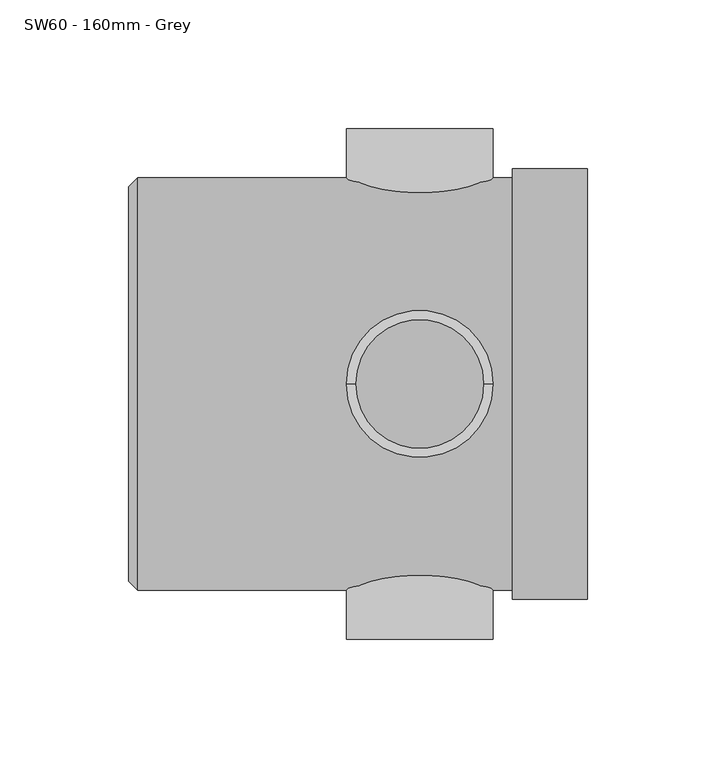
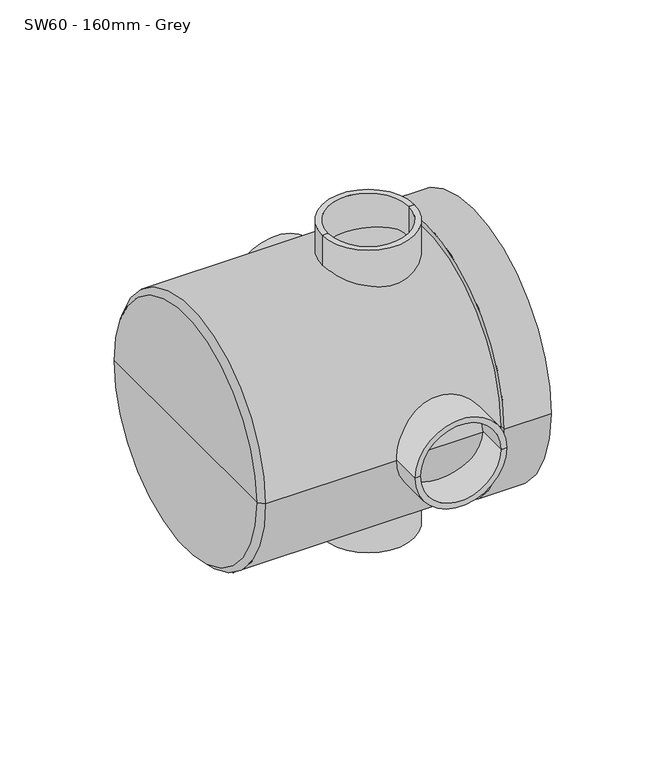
"""IFC4 building model written with IfcOpenShell, lengths in millimetres: pipe fitting geometry, MarleyPlumbingAndDrainage_PipeFitting_BossPipePushFitSolventSocket : SW60 - 160mm - Grey."""

import ifcopenshell
import ifcopenshell.guid

model = None  # the IFC model being written
_history = None  # IfcOwnerHistory: only IFC2X3 demands one
_inside = {}  # id of a spatial element -> (the spatial element, [elements in it])
_under = {}  # id of a project, library or spatial element -> (it, [spatial elements below it])
_declared = {}  # id of a project -> (the project, [libraries it declares])
_typed = {}  # id of a type object -> (the type object, [elements of that type])
_made_of = {}  # id of a material, layer set ... -> (it, [elements and type objects made of it])


def new_model(schema):
    """Start an empty IFC model of exactly this schema.

    Asked for "IFC4X3", IfcOpenShell would pick the latest addendum, in which some entities
    have other attributes; the version numbers below select the first issue.
    IFC2X3 requires an IfcOwnerHistory on every rooted entity: one is made here for all.
    """
    global model, _history
    if schema == "IFC4X3":
        model = ifcopenshell.file(schema_version=(4, 3, 0, 0))
    else:
        model = ifcopenshell.file(schema=schema)
    _inside.clear()
    _under.clear()
    _declared.clear()
    _typed.clear()
    _made_of.clear()
    _history = None
    if model.schema == "IFC2X3":
        org = make("IfcOrganization", Name="unknown")
        user = make(
            "IfcPersonAndOrganization",
            ThePerson=make("IfcPerson", FamilyName="unknown"),
            TheOrganization=org,
        )
        app = make(
            "IfcApplication",
            ApplicationDeveloper=org,
            Version="unknown",
            ApplicationFullName="unknown",
            ApplicationIdentifier="unknown",
        )
        _history = make(
            "IfcOwnerHistory",
            OwningUser=user,
            OwningApplication=app,
            ChangeAction="ADDED",
            CreationDate=0,
        )
    return model


def make(cls, **values):
    """One entity of the class cls with the attributes given. An attribute that is None is left unset."""
    return model.create_entity(
        cls, **{name: value for name, value in values.items() if value is not None}
    )


def rooted(cls, **values):
    """An entity with a GlobalId (a new one), such as an element, a storey or a relation."""
    return make(cls, GlobalId=ifcopenshell.guid.new(), OwnerHistory=_history, **values)


def si_unit(unit_type, name, prefix=None):
    """IfcSIUnit, for example si_unit("LENGTHUNIT", "METRE", prefix="MILLI")."""
    return make("IfcSIUnit", UnitType=unit_type, Prefix=prefix, Name=name)


def assignment(units):
    """IfcUnitAssignment: the units of a project."""
    return None if units is None else make("IfcUnitAssignment", Units=units)


def point(xyz):
    """IfcCartesianPoint."""
    return None if xyz is None else make("IfcCartesianPoint", Coordinates=xyz)


def direction(xyz):
    """IfcDirection."""
    return None if xyz is None else make("IfcDirection", DirectionRatios=xyz)


def frame(location, z_axis=None, x_axis=None):
    """IfcAxis2Placement3D, a coordinate frame: its origin and axes. An axis left out is left unset."""
    return make(
        "IfcAxis2Placement3D",
        Location=point(location),
        Axis=direction(z_axis),
        RefDirection=direction(x_axis),
    )


def origin():
    """The frame at (0, 0, 0) with its axes left unset."""
    return frame((0.0, 0.0, 0.0))


def place(relative_to, where):
    """IfcLocalPlacement: puts the frame where relative to a parent placement (None: the world)."""
    return make(
        "IfcLocalPlacement", PlacementRelTo=relative_to, RelativePlacement=where
    )


def context(
    kind, dimensions, precision=None, world=None, true_north=None, identifier=None
):
    """IfcGeometricRepresentationContext, for example the 3D "Model" context."""
    return make(
        "IfcGeometricRepresentationContext",
        ContextIdentifier=identifier,
        ContextType=kind,
        CoordinateSpaceDimension=dimensions,
        Precision=precision,
        WorldCoordinateSystem=world,
        TrueNorth=true_north,
    )


def project(units=None, contexts=None):
    """IfcProject with its units and contexts."""
    return rooted(
        "IfcProject",
        Name="project",
        RepresentationContexts=contexts,
        UnitsInContext=assignment(units),
    )


def spatial(cls, under=None, at=None, **own):
    """A site, building, storey or space (cls), placed at a placement, below another one or the project."""
    s = rooted(cls, ObjectPlacement=at, **own)
    if under is not None:
        _under.setdefault(under.id(), (under, []))[1].append(s)
    return s


def polyline(points):
    """IfcPolyline through the points."""
    return make("IfcPolyline", Points=[point(p) for p in points])


def circle_curve(where, radius):
    """IfcCircle in the frame where."""
    return make("IfcCircle", Position=where, Radius=radius)


def shape(context_of_items, identifier, shape_type, items):
    """IfcShapeRepresentation: the items that make up one representation, for example the "Body"."""
    return make(
        "IfcShapeRepresentation",
        ContextOfItems=context_of_items,
        RepresentationIdentifier=identifier,
        RepresentationType=shape_type,
        Items=items,
    )


def source(mapping_origin, context_of_items, identifier, shape_type, items):
    """IfcRepresentationMap: a shape defined once, which mapped items show again and again."""
    return make(
        "IfcRepresentationMap",
        MappingOrigin=mapping_origin,
        MappedRepresentation=shape(context_of_items, identifier, shape_type, items),
    )


def transform(
    local_origin,
    x_axis=None,
    y_axis=None,
    z_axis=None,
    scale=None,
    scale2=None,
    scale3=None,
    uniform=True,
):
    """IfcCartesianTransformationOperator3D, or its non-uniform kind. x_axis, y_axis, z_axis: its Axis1, 2, 3."""
    if uniform:
        return make(
            "IfcCartesianTransformationOperator3D",
            Axis1=direction(x_axis),
            Axis2=direction(y_axis),
            LocalOrigin=point(local_origin),
            Scale=scale,
            Axis3=direction(z_axis),
        )
    return make(
        "IfcCartesianTransformationOperator3DnonUniform",
        Axis1=direction(x_axis),
        Axis2=direction(y_axis),
        LocalOrigin=point(local_origin),
        Scale=scale,
        Axis3=direction(z_axis),
        Scale2=scale2,
        Scale3=scale3,
    )


def mapped(mapping_source, mapping_target):
    """IfcMappedItem: shows the shape of a source again, moved by a transform."""
    return make(
        "IfcMappedItem", MappingSource=mapping_source, MappingTarget=mapping_target
    )


def made_of(thing, what):
    """Note that an element or type object is made of a material, layer set ...; save() writes the relation."""
    if what is not None:
        _made_of.setdefault(what.id(), (what, []))[1].append(thing)
    return thing


def element(
    cls,
    number,
    at=None,
    inside=None,
    cuts=None,
    type_object=None,
    material=None,
    context=None,
    identifier="Body",
    shape_type=None,
    held_by="IfcProductDefinitionShape",
    body=None,
    shapes=None,
    **own,
):
    """One element of the class cls, such as IfcWall. Its Tag is "e" and its number.

    at: its placement. inside: the storey or other place that contains it. cuts: it is an
    opening in that element (IfcRelVoidsElement). A single representation is given by context,
    identifier, shape_type and body (its items); several are given by shapes. held_by: the class
    of the entity that holds the representations. save() writes the other relations.
    """
    e = rooted(cls, Tag="e%d" % number, ObjectPlacement=at, **own)
    if body is not None:
        shapes = [shape(context, identifier, shape_type, body)]
    if shapes is not None:
        e.Representation = make(held_by, Representations=shapes)
    if inside is not None:
        _inside.setdefault(inside.id(), (inside, []))[1].append(e)
    if cuts is not None:
        rooted(
            "IfcRelVoidsElement", RelatingBuildingElement=cuts, RelatedOpeningElement=e
        )
    if type_object is not None:
        _typed.setdefault(type_object.id(), (type_object, []))[1].append(e)
    return made_of(e, material)


def aggregate(whole, parts):
    """IfcRelAggregates: a whole, such as a stair, and the parts it consists of."""
    return rooted("IfcRelAggregates", RelatingObject=whole, RelatedObjects=parts)


def save(model, path):
    """Write the relations noted so far, then the file.

    IfcRelAggregates (storeys below a building ...), IfcRelContainedInSpatialStructure (elements
    in a storey), IfcRelDefinesByType, IfcRelAssociatesMaterial and IfcRelDeclares: one each for
    every whole, place, type object, material and project.
    """
    for whole, parts in _under.values():
        aggregate(whole, parts)
    for where, things in _inside.values():
        rooted(
            "IfcRelContainedInSpatialStructure",
            RelatedElements=things,
            RelatingStructure=where,
        )
    for kind, things in _typed.values():
        rooted("IfcRelDefinesByType", RelatedObjects=things, RelatingType=kind)
    for what, things in _made_of.values():
        rooted("IfcRelAssociatesMaterial", RelatedObjects=things, RelatingMaterial=what)
    for by, libraries in _declared.values():
        rooted("IfcRelDeclares", RelatingContext=by, RelatedDefinitions=libraries)
    model.write(path)


def plane_surface(at):
    """IfcPlane: the flat surface through the origin of the frame at, square to its z axis."""
    return make("IfcPlane", Position=at)


def cylinder_surface(at, radius):
    """IfcCylindricalSurface: all points at the distance radius from the z axis of the frame at."""
    return make("IfcCylindricalSurface", Position=at, Radius=radius)


def revolved_surface(curve, axis_point, axis_direction):
    """IfcSurfaceOfRevolution: the curve turned about the line through axis_point along axis_direction."""
    return make(
        "IfcSurfaceOfRevolution",
        SweptCurve=make("IfcArbitraryOpenProfileDef", ProfileType="CURVE", Curve=curve),
        AxisPosition=make("IfcAxis1Placement", Location=point(axis_point), Axis=direction(axis_direction)),
    )


def advanced_brep(points, edges, surfaces, faces):
    """IfcAdvancedBrep: a solid bounded by faces that lie on surfaces and meet in shared edges.

    An edge is (start, end): straight between two places in points (the first is 0);
    or (start, end, curve); or (start, end, curve, False) where it runs against its curve.
    A face is (place in surfaces, loops), or (place, loops, False) where it looks against
    its surface's normal. A loop lists edges by number (the first is 1), with a minus sign
    where the edge is run from its end to its start. The first loop is the outer one.
    """
    corners = [point(p) for p in points]
    vertices = [make("IfcVertexPoint", VertexGeometry=c) for c in corners]
    made = []
    for start, end, *more in edges:
        made.append(
            make(
                "IfcEdgeCurve",
                EdgeStart=vertices[start],
                EdgeEnd=vertices[end],
                EdgeGeometry=more[0] if more else make("IfcPolyline", Points=[corners[start], corners[end]]),
                SameSense=more[1] if len(more) > 1 else True,
            )
        )
    hull = []
    for where, loops, *sense in faces:
        bounds = []
        for j, loop in enumerate(loops):
            ring = [make("IfcOrientedEdge", EdgeElement=made[abs(k) - 1], Orientation=k > 0) for k in loop]
            bounds.append(
                make(
                    "IfcFaceOuterBound" if j == 0 else "IfcFaceBound",
                    Bound=make("IfcEdgeLoop", EdgeList=ring),
                    Orientation=True,
                )
            )
        hull.append(make("IfcAdvancedFace", Bounds=bounds, FaceSurface=surfaces[where], SameSense=sense[0] if sense else True))
    return make("IfcAdvancedBrep", Outer=make("IfcClosedShell", CfsFaces=hull))


def sw60_160mm_grey_9d2c8001(model_context):
    return source(origin(), model_context, "Body", "AdvancedBrep", [
        advanced_brep(
        [(37.6746182, 0.0, 99.0), (-19.3253818, 0.0, 99.0), (-15.8253818, 0.0, 99.0), (34.1746182, 0.0, 99.0), (37.6746182, 0.0, -99.0), (-19.3253818, 0.0, -99.0), (34.1746182, 0.0, -99.0), (-15.8253818, 0.0, -99.0)],
        [
            (0, 1, circle_curve(frame((9.1746182, 0.0, 99.0), z_axis=(0.0, 0.0, 1.0), x_axis=(-1.0, 0.0, 0.0)), 28.5)),
            (1, 2),
            (2, 3, circle_curve(frame((9.1746182, 0.0, 99.0), z_axis=(0.0, 0.0, -1.0), x_axis=(-1.0, 0.0, 0.0)), 25.0)),
            (3, 0),
            (1, 0, circle_curve(frame((9.1746182, 0.0, 99.0), z_axis=(0.0, 0.0, 1.0), x_axis=(-1.0, 0.0, 0.0)), 28.5)),
            (3, 2, circle_curve(frame((9.1746182, 0.0, 99.0), z_axis=(0.0, 0.0, -1.0), x_axis=(-1.0, 0.0, 0.0)), 25.0)),
            (4, 5, circle_curve(frame((9.1746182, 0.0, -99.0), z_axis=(0.0, 0.0, 1.0), x_axis=(-1.0, 0.0, 0.0)), 28.5)),
            (5, 1),
            (0, 4),
            (5, 4, circle_curve(frame((9.1746182, 0.0, -99.0), z_axis=(0.0, 0.0, 1.0), x_axis=(-1.0, 0.0, 0.0)), 28.5)),
            (6, 7, circle_curve(frame((9.1746182, 0.0, -99.0), z_axis=(0.0, 0.0, 1.0), x_axis=(-1.0, 0.0, 0.0)), 25.0)),
            (7, 5),
            (4, 6),
            (7, 6, circle_curve(frame((9.1746182, 0.0, -99.0), z_axis=(0.0, 0.0, 1.0), x_axis=(-1.0, 0.0, 0.0)), 25.0)),
            (2, 7),
            (6, 3),
        ],
        [
            plane_surface(frame((9.1746182, 0.0, 99.0), z_axis=(0.0, 0.0, 1.0), x_axis=(-1.0, 0.0, 0.0))),
            cylinder_surface(frame((9.1746182, 0.0, 2438.4), z_axis=(0.0, 0.0, -1.0), x_axis=(-1.0, 0.0, 0.0)), 28.5),
            plane_surface(frame((9.1746182, 0.0, -99.0), z_axis=(0.0, 0.0, -1.0), x_axis=(-1.0, 0.0, 0.0))),
            revolved_surface(polyline([(-15.8253818, 0.0, -99.0), (-15.8253818, 0.0, 99.0)]), (9.1746182, 0.0, 2438.4), (0.0, 0.0, -1.0)),
        ],
        [
            (0, [[1, 2, 3, 4]]),
            (0, [[5, -4, 6, -2]]),
            (1, [[7, 8, -1, 9]]),
            (1, [[10, -9, -5, -8]]),
            (2, [[11, 12, -7, 13]]),
            (2, [[14, -13, -10, -12]]),
            (3, [[-3, 15, -11, 16]]),
            (3, [[-6, -16, -14, -15]]),
        ],
    ),
        advanced_brep(
        [(37.6746182, 99.0, 0.0), (-19.3253818, 99.0, 0.0), (-15.8253818, 99.0, 0.0), (34.1746182, 99.0, 0.0), (37.6746182, -99.0, 0.0), (-19.3253818, -99.0, 0.0), (34.1746182, -99.0, 0.0), (-15.8253818, -99.0, 0.0)],
        [
            (0, 1, circle_curve(frame((9.1746182, 99.0, 0.0), z_axis=(0.0, 1.0, 0.0), x_axis=(-1.0, 0.0, 0.0)), 28.5)),
            (1, 2),
            (2, 3, circle_curve(frame((9.1746182, 99.0, 0.0), z_axis=(0.0, -1.0, 0.0), x_axis=(-1.0, 0.0, 0.0)), 25.0)),
            (3, 0),
            (1, 0, circle_curve(frame((9.1746182, 99.0, 0.0), z_axis=(0.0, 1.0, 0.0), x_axis=(-1.0, 0.0, 0.0)), 28.5)),
            (3, 2, circle_curve(frame((9.1746182, 99.0, 0.0), z_axis=(0.0, -1.0, 0.0), x_axis=(-1.0, 0.0, 0.0)), 25.0)),
            (4, 5, circle_curve(frame((9.1746182, -99.0, 0.0), z_axis=(0.0, 1.0, 0.0), x_axis=(-1.0, 0.0, 0.0)), 28.5)),
            (5, 1),
            (0, 4),
            (5, 4, circle_curve(frame((9.1746182, -99.0, 0.0), z_axis=(0.0, 1.0, 0.0), x_axis=(-1.0, 0.0, 0.0)), 28.5)),
            (6, 7, circle_curve(frame((9.1746182, -99.0, 0.0), z_axis=(0.0, 1.0, 0.0), x_axis=(-1.0, 0.0, 0.0)), 25.0)),
            (7, 5),
            (4, 6),
            (7, 6, circle_curve(frame((9.1746182, -99.0, 0.0), z_axis=(0.0, 1.0, 0.0), x_axis=(-1.0, 0.0, 0.0)), 25.0)),
            (2, 7),
            (6, 3),
        ],
        [
            plane_surface(frame((9.1746182, 99.0, 0.0), z_axis=(0.0, 1.0, 0.0), x_axis=(-1.0, 0.0, 0.0))),
            cylinder_surface(frame((9.1746182, 127.3617132, 0.0), z_axis=(0.0, -1.0, 0.0), x_axis=(-1.0, 0.0, 0.0)), 28.5),
            plane_surface(frame((9.1746182, -99.0, 0.0), z_axis=(0.0, -1.0, 0.0), x_axis=(-1.0, 0.0, 0.0))),
            revolved_surface(polyline([(-15.8253818, -99.0, 0.0), (-15.8253818, 99.0, 0.0)]), (9.1746182, 127.3617132, 0.0), (0.0, -1.0, 0.0)),
        ],
        [
            (0, [[1, 2, 3, 4]]),
            (0, [[5, -4, 6, -2]]),
            (1, [[7, 8, -1, 9]]),
            (1, [[10, -9, -5, -8]]),
            (2, [[11, 12, -7, 13]]),
            (2, [[14, -13, -10, -12]]),
            (3, [[-3, 15, -11, 16]]),
            (3, [[-6, -16, -14, -15]]),
        ],
    ),
        advanced_brep(
        [(45.1746182, -83.5, 0.0), (45.1746182, 83.5, 0.0), (74.1746182, 83.5, 0.0), (74.1746182, -83.5, 0.0), (45.1746182, -80.0, 0.0), (45.1746182, 80.0, 0.0), (-100.3253818, -80.0, 0.0), (-100.3253818, 80.0, 0.0), (-103.8253818, -76.5, 0.0), (-103.8253818, 76.5, 0.0), (-103.8253818, 0.0, 0.0), (48.6746182, -80.0, 0.0), (48.6746182, 80.0, 0.0), (48.6746182, 0.0, 0.0), (74.1746182, -80.0, 0.0), (74.1746182, 80.0, 0.0)],
        [
            (0, 1, circle_curve(frame((45.1746182, 0.0, 0.0), z_axis=(1.0, 0.0, 0.0), x_axis=(0.0, 1.0, 0.0)), 83.5)),
            (1, 2),
            (2, 3, circle_curve(frame((74.1746182, 0.0, 0.0), z_axis=(-1.0, 0.0, 0.0), x_axis=(0.0, 1.0, 0.0)), 83.5)),
            (3, 0),
            (1, 0, circle_curve(frame((45.1746182, 0.0, 0.0), z_axis=(1.0, 0.0, 0.0), x_axis=(0.0, 1.0, 0.0)), 83.5)),
            (3, 2, circle_curve(frame((74.1746182, 0.0, 0.0), z_axis=(-1.0, 0.0, 0.0), x_axis=(0.0, 1.0, 0.0)), 83.5)),
            (4, 5, circle_curve(frame((45.1746182, 0.0, 0.0), z_axis=(1.0, 0.0, 0.0), x_axis=(0.0, 1.0, 0.0)), 80.0)),
            (5, 1),
            (0, 4),
            (5, 4, circle_curve(frame((45.1746182, 0.0, 0.0), z_axis=(1.0, 0.0, 0.0), x_axis=(0.0, 1.0, 0.0)), 80.0)),
            (6, 7, circle_curve(frame((-100.3253818, 0.0, 0.0), z_axis=(1.0, 0.0, 0.0), x_axis=(0.0, 1.0, 0.0)), 80.0)),
            (7, 5),
            (4, 6),
            (7, 6, circle_curve(frame((-100.3253818, 0.0, 0.0), z_axis=(1.0, 0.0, 0.0), x_axis=(0.0, 1.0, 0.0)), 80.0)),
            (8, 9, circle_curve(frame((-103.8253818, 0.0, 0.0), z_axis=(1.0, 0.0, 0.0), x_axis=(0.0, 1.0, 0.0)), 76.5)),
            (9, 7),
            (6, 8),
            (9, 8, circle_curve(frame((-103.8253818, 0.0, 0.0), z_axis=(1.0, 0.0, 0.0), x_axis=(0.0, 1.0, 0.0)), 76.5)),
            (10, 9),
            (8, 10),
            (11, 12, circle_curve(frame((48.6746182, 0.0, 0.0), z_axis=(1.0, 0.0, 0.0), x_axis=(0.0, 1.0, 0.0)), 80.0)),
            (12, 13),
            (13, 11),
            (12, 11, circle_curve(frame((48.6746182, 0.0, 0.0), z_axis=(1.0, 0.0, 0.0), x_axis=(0.0, 1.0, 0.0)), 80.0)),
            (14, 15, circle_curve(frame((74.1746182, 0.0, 0.0), z_axis=(1.0, 0.0, 0.0), x_axis=(0.0, 1.0, 0.0)), 80.0)),
            (15, 12),
            (11, 14),
            (15, 14, circle_curve(frame((74.1746182, 0.0, 0.0), z_axis=(1.0, 0.0, 0.0), x_axis=(0.0, 1.0, 0.0)), 80.0)),
            (2, 15),
            (14, 3),
        ],
        [
            cylinder_surface(frame((2000.0, 0.0, 0.0), z_axis=(-1.0, 0.0, 0.0), x_axis=(0.0, 1.0, 0.0)), 83.5),
            plane_surface(frame((45.1746182, 0.0, 0.0), z_axis=(-1.0, 0.0, 0.0), x_axis=(0.0, 1.0, 0.0))),
            cylinder_surface(frame((2000.0, 0.0, 0.0), z_axis=(-1.0, 0.0, 0.0), x_axis=(0.0, 1.0, 0.0)), 80.0),
            revolved_surface(polyline([(-100.3253818, 80.0, 0.0), (-103.8253818, 76.5, 0.0)]), (2000.0, 0.0, 0.0), (-1.0, 0.0, 0.0)),
            plane_surface(frame((-103.8253818, 0.0, 0.0), z_axis=(-1.0, 0.0, 0.0), x_axis=(0.0, 1.0, 0.0))),
            plane_surface(frame((48.6746182, 0.0, 0.0), z_axis=(1.0, 0.0, 0.0), x_axis=(0.0, 1.0, 0.0))),
            revolved_surface(polyline([(48.67461819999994, 80.0, 0.0), (74.17461819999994, 80.0, 0.0)]), (2000.0, 0.0, 0.0), (-1.0, 0.0, 0.0)),
            plane_surface(frame((74.1746182, 0.0, 0.0), z_axis=(1.0, 0.0, 0.0), x_axis=(0.0, 1.0, 0.0))),
        ],
        [
            (0, [[1, 2, 3, 4]]),
            (0, [[5, -4, 6, -2]]),
            (1, [[7, 8, -1, 9]]),
            (1, [[10, -9, -5, -8]]),
            (2, [[11, 12, -7, 13]]),
            (2, [[14, -13, -10, -12]]),
            (3, [[15, 16, -11, 17]]),
            (3, [[18, -17, -14, -16]]),
            (4, [[19, -15, 20]]),
            (4, [[-20, -18, -19]]),
            (5, [[21, 22, 23]]),
            (5, [[24, -23, -22]]),
            (6, [[25, 26, -21, 27]]),
            (6, [[28, -27, -24, -26]]),
            (7, [[-3, 29, -25, 30]]),
            (7, [[-6, -30, -28, -29]]),
        ],
    ),
    ])


if __name__ == "__main__":
    model = new_model("IFC4")
    model_context = context("Model", 3, world=origin())
    ifc_project = project(units=[si_unit("LENGTHUNIT", "METRE", prefix="MILLI")], contexts=[model_context])
    site = spatial("IfcSite", under=ifc_project)
    building = spatial("IfcBuilding", under=site)
    placement = place(None, origin())
    sw60_160mm_grey_shape = sw60_160mm_grey_9d2c8001(model_context)
    element("IfcPipeFitting", 1, ObjectType="MarleyPlumbingAndDrainage_PipeFitting_BossPipePushFitSolventSocket : SW60 - 160mm - Grey", at=placement, inside=building, context=model_context, shape_type="MappedRepresentation", body=[
        mapped(sw60_160mm_grey_shape, transform((0.0, 0.0, 0.0), x_axis=(1.0, 0.0, 0.0), y_axis=(0.0, 1.0, 0.0), z_axis=(0.0, 0.0, 1.0))),
    ])
    save(model, "model.ifc")
